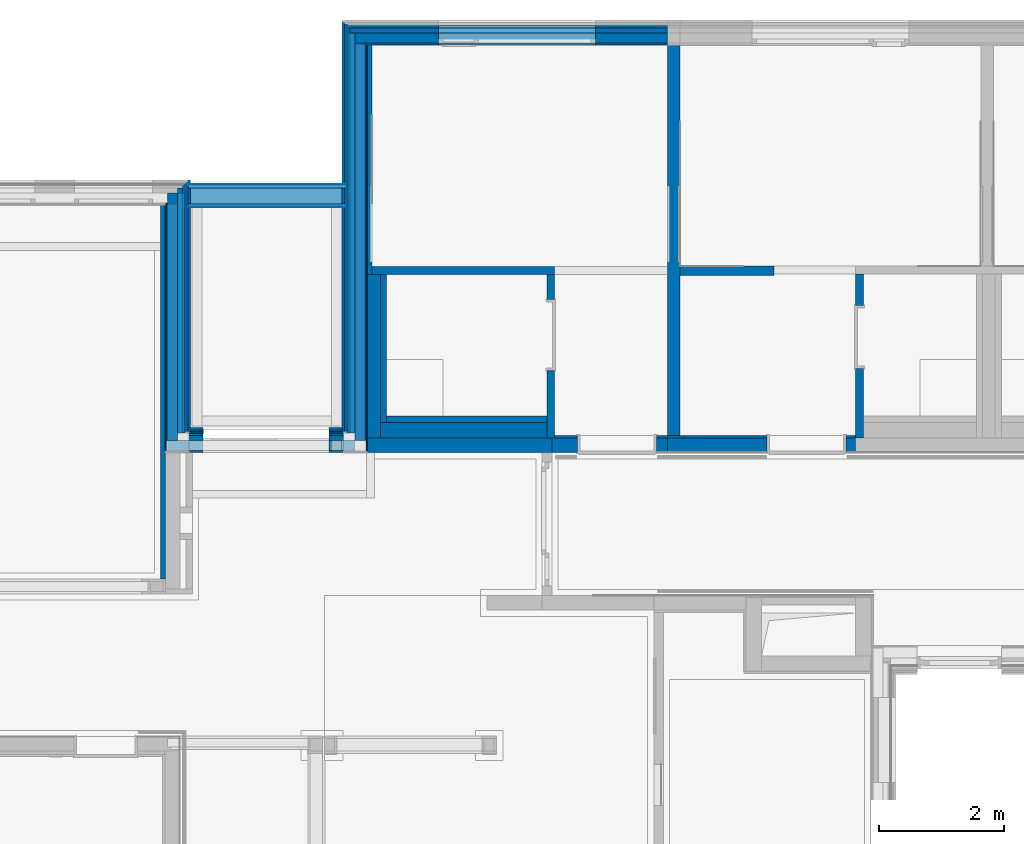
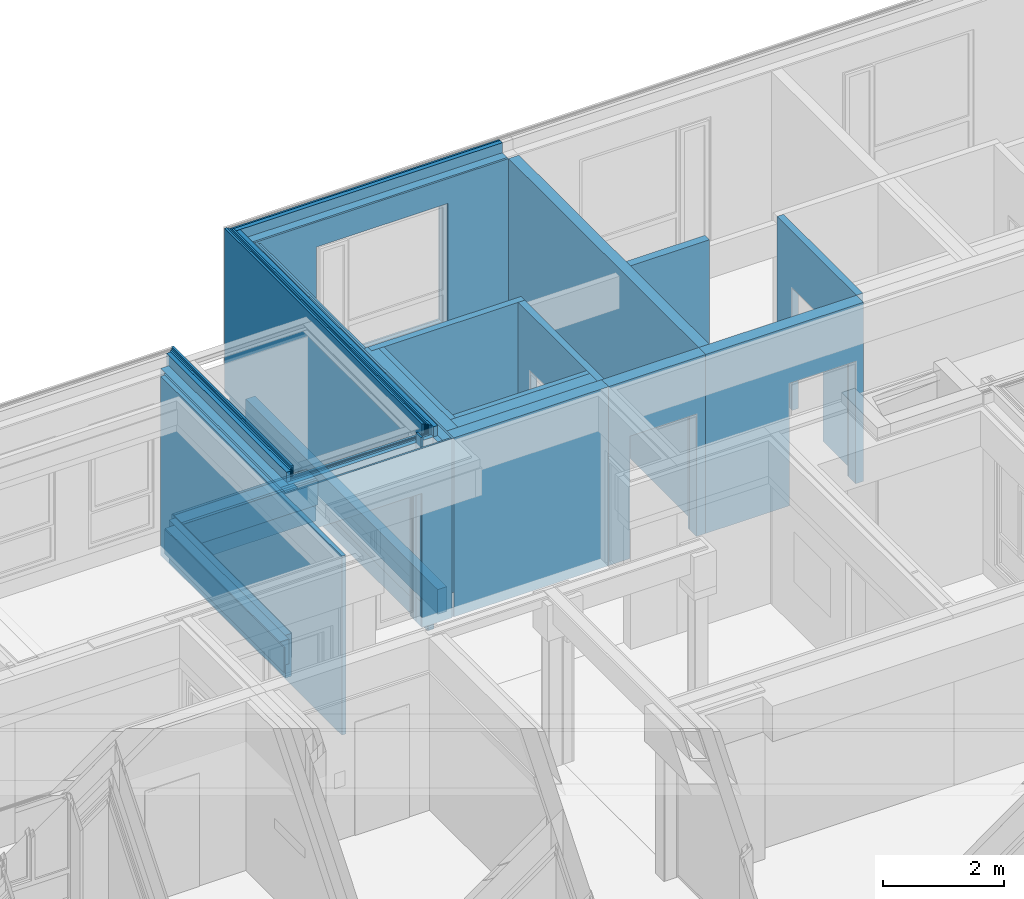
# One storey, part 58 of 207: 55 walls, 17 openings.
"""IFC4 building model written with IfcOpenShell, lengths in metres."""

from ifc_helpers import new_model, entity, si_unit, converted_unit, derived_unit, frame, frame_2d, origin, origin_with_axes, place, context, subcontext, project, spatial, polyline, rectangle, outline, extrude, clip, bounded_halfspace, material, element, save


model = new_model("IFC4")

# Units and contexts
model_context = context("Model", 3, precision=1e-05, world=origin())
body_context = subcontext(model_context, "Body", "Model", "MODEL_VIEW")
ifc_project = project(units=[si_unit("LENGTHUNIT", "METRE"), si_unit("AREAUNIT", "SQUARE_METRE"), si_unit("VOLUMEUNIT", "CUBIC_METRE"), si_unit("MASSUNIT", "GRAM", prefix="KILO"), converted_unit("PLANEANGLEUNIT", "DEGREE", entity("IfcPlaneAngleMeasure", 0.0174532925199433), si_unit("PLANEANGLEUNIT", "RADIAN"), dimensions=[0, 0, 0, 0, 0, 0, 0]), derived_unit("THERMALTRANSMITTANCEUNIT", [(si_unit("POWERUNIT", "WATT"), 1), (si_unit("THERMODYNAMICTEMPERATUREUNIT", "KELVIN"), -1), (si_unit("LENGTHUNIT", "METRE"), -2)]), derived_unit("VOLUMETRICFLOWRATEUNIT", [(si_unit("LENGTHUNIT", "METRE"), 3), (converted_unit("TIMEUNIT", "hour", entity("IfcTimeMeasure", 3600.0), si_unit("TIMEUNIT", "SECOND"), dimensions=[0, 0, 1, 0, 0, 0, 0]), -1), (si_unit("LENGTHUNIT", "METRE"), -1)])], contexts=[model_context])

# Site, building, storey
site_placement = place(None, origin())
site = spatial("IfcSite", under=ifc_project, at=site_placement, Name="Psychiatrie Neubau Wunstorf", CompositionType="ELEMENT")
building_placement = place(site_placement, origin())
building = spatial("IfcBuilding", under=site, at=building_placement, Name="Neubau H2 Stationsgebäude", CompositionType="ELEMENT")
storey_placement = place(building_placement, frame((0.0, 0.0, -0.2)))
storey = spatial("IfcBuildingStorey", under=building, at=storey_placement, Name="H2 Ebene 0", CompositionType="ELEMENT", Elevation=-0.2)

# Wall, opening
ifc_material_1 = material(Name="WA-LB")
wall_1_placement = place(storey_placement, frame((71.075, 31.614, 0.5), z_axis=(0.0, 0.0, 1.0), x_axis=(1.0, -1.50797048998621e-15, 0.0)))
wall_1 = element("IfcWall", 1, at=wall_1_placement, inside=storey, material=ifc_material_1, context=body_context, shape_type="SweptSolid", body=[
    extrude(rectangle(XDim=4.82499999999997, YDim=0.036, at=frame_2d((2.41249999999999, 0.018), x_axis=(1.0, 0.0))), origin_with_axes(), (0.0, 0.0, 1.0), 3.1),
])
opening_1_placement = place(wall_1_placement, frame((1.17499999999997, 0.0, 0.1), z_axis=(0.0, 1.0, 0.0), x_axis=(0.0, 0.0, 1.0)))
element("IfcOpeningElement", 2, at=opening_1_placement, cuts=wall_1, Name="Fensteröffnung", ObjectType="Opening", context=body_context, shape_type="SweptSolid", body=[
    extrude(outline(polyline([(2.5, 2.5), (2.5, 0.0), (0.0, 0.0), (0.0, 2.5), (2.5, 2.5)])), origin_with_axes(), (0.0, 0.0, 1.0), 0.0360000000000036),
])

ifc_material_2 = material(Name="WA-HD")
wall_2_placement = place(storey_placement, frame((70.915, 31.65, 0.5), z_axis=(0.0, 0.0, 1.0), x_axis=(1.0, -1.45957023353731e-15, 0.0)))
wall_2 = element("IfcWall", 3, at=wall_2_placement, inside=storey, material=ifc_material_2, context=body_context, shape_type="SweptSolid", body=[
    extrude(rectangle(XDim=4.98499999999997, YDim=0.16, at=frame_2d((2.49249999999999, 0.08), x_axis=(1.0, 0.0))), origin_with_axes(), (0.0, 0.0, 1.0), 3.1),
])
opening_2_placement = place(wall_2_placement, frame((1.33499999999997, 0.0, 0.1), z_axis=(-1.4210854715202e-15, 1.0, 0.0), x_axis=(0.0, 0.0, 1.0)))
element("IfcOpeningElement", 4, at=opening_2_placement, cuts=wall_2, Name="Fensteröffnung", ObjectType="Opening", context=body_context, shape_type="SweptSolid", body=[
    extrude(outline(polyline([(2.5, 2.5), (2.5, 0.0), (0.0, 0.0), (0.0, 2.5), (2.5, 2.5)])), origin_with_axes(), (0.0, 0.0, 1.0), 0.16),
])

ifc_material_3 = material(Name="WA-DL")
wall_3_placement = place(storey_placement, frame((70.835, 31.81, 0.5), z_axis=(0.0, 0.0, 1.0), x_axis=(1.0, -1.43651680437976e-15, 0.0)))
wall_3 = element("IfcWall", 5, at=wall_3_placement, inside=storey, material=ifc_material_3, context=body_context, shape_type="SweptSolid", body=[
    extrude(rectangle(XDim=5.06499999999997, YDim=0.08, at=frame_2d((2.53249999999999, 0.04), x_axis=(1.0, 0.0))), origin_with_axes(), (0.0, 0.0, 1.0), 3.3),
])
opening_3_placement = place(wall_3_placement, frame((1.41499999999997, 0.0, 0.1), z_axis=(-2.8421709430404e-15, 1.0, 0.0), x_axis=(0.0, 0.0, 1.0)))
element("IfcOpeningElement", 6, at=opening_3_placement, cuts=wall_3, Name="Fensteröffnung", ObjectType="Opening", context=body_context, shape_type="SweptSolid", body=[
    extrude(outline(polyline([(2.5, 2.5), (2.5, 0.0), (0.0, 0.0), (0.0, 2.5), (2.5, 2.5)])), origin_with_axes(), (0.0, 0.0, 1.0), 0.08),
])

ifc_material_4 = material(Name="WA-TP")
wall_4_placement = place(storey_placement, frame((70.799, 31.89, 0.5), z_axis=(0.0, 0.0, 1.0), x_axis=(1.0, -1.42637867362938e-15, 0.0)))
wall_4 = element("IfcWall", 7, at=wall_4_placement, inside=storey, material=ifc_material_4, context=body_context, shape_type="SweptSolid", body=[
    extrude(rectangle(XDim=5.10099999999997, YDim=0.036, at=frame_2d((2.55049999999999, 0.018), x_axis=(1.0, 0.0))), origin_with_axes(), (0.0, 0.0, 1.0), 3.3),
])
opening_4_placement = place(wall_4_placement, frame((1.45099999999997, 0.0, 0.1), z_axis=(0.0, 1.0, 0.0), x_axis=(0.0, 0.0, 1.0)))
element("IfcOpeningElement", 8, at=opening_4_placement, cuts=wall_4, Name="Fensteröffnung", ObjectType="Opening", context=body_context, shape_type="SweptSolid", body=[
    extrude(outline(polyline([(2.5, 2.5), (2.5, 0.0), (0.0, 0.0), (0.0, 2.5), (2.5, 2.5)])), origin_with_axes(), (0.0, 0.0, 1.0), 0.036),
])

# Walls
ifc_material_5 = material(Name="WA-LB")
wall_5_placement = place(storey_placement, frame((71.111, 25.1140036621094, 0.5), z_axis=(0.0, 0.0, 1.0), x_axis=(0.0, 1.0, 0.0)))
element("IfcWall", 9, at=wall_5_placement, inside=storey, material=ifc_material_5, context=body_context, shape_type="SweptSolid", body=[
    extrude(rectangle(XDim=6.49999633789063, YDim=0.036, at=frame_2d((3.24999816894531, 0.018), x_axis=(1.0, 0.0))), origin_with_axes(), (0.0, 0.0, 1.0), 3.1),
])
ifc_material_6 = material(Name="WA-HD")
wall_6_placement = place(storey_placement, frame((71.075, 25.1500036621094, 0.5), z_axis=(0.0, 0.0, 1.0), x_axis=(0.0, 1.0, 0.0)))
element("IfcWall", 10, at=wall_6_placement, inside=storey, material=ifc_material_6, context=body_context, shape_type="SweptSolid", body=[
    extrude(rectangle(XDim=6.49999633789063, YDim=0.16, at=frame_2d((3.24999816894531, 0.08), x_axis=(1.0, 0.0))), origin_with_axes(), (0.0, 0.0, 1.0), 3.1),
])
ifc_material_7 = material(Name="WA-DL")
wall_7_placement = place(storey_placement, frame((70.915, 25.3100036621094, 0.5), z_axis=(0.0, 0.0, 1.0), x_axis=(0.0, 1.0, 0.0)))
element("IfcWall", 11, at=wall_7_placement, inside=storey, material=ifc_material_7, context=body_context, shape_type="SweptSolid", body=[
    extrude(rectangle(XDim=6.49999633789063, YDim=0.08, at=frame_2d((3.24999816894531, 0.04), x_axis=(1.0, 0.0))), origin_with_axes(), (0.0, 0.0, 1.0), 3.3),
])
ifc_material_8 = material(Name="WA-TP")
wall_8_placement = place(storey_placement, frame((70.835, 25.3900036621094, 0.5), z_axis=(0.0, 0.0, 1.0), x_axis=(0.0, 1.0, 0.0)))
element("IfcWall", 12, at=wall_8_placement, inside=storey, material=ifc_material_8, context=body_context, shape_type="SweptSolid", body=[
    extrude(rectangle(XDim=6.49999633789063, YDim=0.036, at=frame_2d((3.24999816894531, 0.018), x_axis=(1.0, 0.0))), origin_with_axes(), (0.0, 0.0, 1.0), 3.3),
])
ifc_material_9 = material(Name="WA-KL")
wall_9_placement = place(storey_placement, frame((70.799, 25.4260036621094, 0.5), z_axis=(0.0, 0.0, 1.0), x_axis=(0.0, 1.0, 0.0)))
element("IfcWall", 13, at=wall_9_placement, inside=storey, material=ifc_material_9, context=body_context, shape_type="SweptSolid", body=[
    extrude(rectangle(XDim=6.49999633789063, YDim=0.024, at=frame_2d((3.24999816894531, 0.012), x_axis=(1.0, 0.0))), origin_with_axes(), (0.0, 0.0, 1.0), 3.3),
])
ifc_material_10 = material(Name="WA-TL")
wall_10_placement = place(storey_placement, frame((70.775, 25.4500036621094, 0.5), z_axis=(0.0, 0.0, 1.0), x_axis=(0.0, 1.0, 0.0)))
element("IfcWall", 14, at=wall_10_placement, inside=storey, material=ifc_material_10, context=body_context, shape_type="SweptSolid", body=[
    extrude(rectangle(XDim=6.49999633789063, YDim=0.024, at=frame_2d((3.24999816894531, 0.012), x_axis=(1.0, 0.0))), origin_with_axes(), (0.0, 0.0, 1.0), 3.3),
])
ifc_material_11 = material(Name="WA-HS")
wall_11_placement = place(storey_placement, frame((70.751, 25.4740036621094, 0.5), z_axis=(0.0, 0.0, 1.0), x_axis=(0.0, 1.0, 0.0)))
element("IfcWall", 15, at=wall_11_placement, inside=storey, material=ifc_material_11, context=body_context, shape_type="SweptSolid", body=[
    extrude(rectangle(XDim=6.49999633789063, YDim=0.042, at=frame_2d((3.24999816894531, 0.021), x_axis=(1.0, 0.0))), origin_with_axes(), (0.0, 0.0, 1.0), 3.3),
])

# Wall, opening
ifc_material_12 = material(Name="WA-LB")
wall_12_placement = place(storey_placement, frame((67.889, 25.1140036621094, 0.0)))
wall_12 = element("IfcWall", 16, at=wall_12_placement, inside=storey, material=ifc_material_12, context=body_context, shape_type="SweptSolid", body=[
    extrude(rectangle(XDim=3.186, YDim=0.036, at=frame_2d((1.593, 0.018), x_axis=(1.0, 0.0))), origin_with_axes(), (0.0, 0.0, 1.0), 3.6),
])
opening_5_placement = place(wall_12_placement, frame((0.602, 0.0, 0.0), z_axis=(0.0, 1.0, 0.0), x_axis=(0.0, 0.0, 1.0)))
element("IfcOpeningElement", 17, at=opening_5_placement, cuts=wall_12, Name="Türöffnung", ObjectType="Opening", context=body_context, shape_type="SweptSolid", body=[
    extrude(outline(polyline([(2.7, 2.01300094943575), (2.7, 0.0), (0.0, 0.0), (0.0, 2.01300094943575), (2.7, 2.01300094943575)])), origin_with_axes(), (0.0, 0.0, 1.0), 0.036),
])

ifc_material_13 = material(Name="WA-HD")
wall_13_placement = place(storey_placement, frame((67.925, 25.1500036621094, 0.0)))
wall_13 = element("IfcWall", 18, at=wall_13_placement, inside=storey, material=ifc_material_13, context=body_context, shape_type="Clipping", body=[
    clip(clip(clip(clip(extrude(rectangle(XDim=2.99, YDim=0.16, at=frame_2d((1.495, 0.08), x_axis=(1.0, 0.0))), origin_with_axes(), (0.0, 0.0, 1.0), 3.6), bounded_halfspace(frame((1.41450000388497, 0.0799990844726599, 3.2), z_axis=(0.0, 0.0, -1.0), x_axis=(-1.0, 0.0, 0.0)), True, origin_with_axes(), polyline([(2.57900000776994, 0.15999816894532), (0.25, 0.15999816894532), (0.25, 0.0), (2.57900000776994, 0.0), (2.57900000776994, 0.15999816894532)]))), bounded_halfspace(frame((2.83750000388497, 0.0799990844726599, 3.2), z_axis=(0.0, 0.0, -1.0), x_axis=(1.0, 0.0, 0.0)), True, origin_with_axes(), polyline([(2.77500000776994, 0.0), (2.9, 0.0), (2.9, 0.15999816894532), (2.77500000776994, 0.15999816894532), (2.77500000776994, 0.0)]))), bounded_halfspace(frame((2.69500000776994, 0.0799990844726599, 0.5), z_axis=(0.0, 0.0, -1.0), x_axis=(0.0, -1.0, 0.0)), True, origin_with_axes(), polyline([(2.61500000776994, 0.15999816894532), (2.61500000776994, 0.0), (2.77500000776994, 0.0), (2.77500000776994, 0.15999816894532), (2.61500000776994, 0.15999816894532)]))), bounded_halfspace(frame((2.59700000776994, 0.0799990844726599, 0.5), z_axis=(0.0, 0.0, -1.0), x_axis=(-1.0, 0.0, 0.0)), True, origin_with_axes(), polyline([(2.61500000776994, 0.15999816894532), (2.57900000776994, 0.15999816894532), (2.57900000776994, 0.0), (2.61500000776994, 0.0), (2.61500000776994, 0.15999816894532)]))),
])
opening_6_placement = place(wall_13_placement, frame((0.566, 0.0, 0.0), z_axis=(0.0, 1.0, 0.0), x_axis=(0.0, 0.0, 1.0)))
element("IfcOpeningElement", 19, at=opening_6_placement, cuts=wall_13, Name="Türöffnung", ObjectType="Opening", context=body_context, shape_type="SweptSolid", body=[
    extrude(outline(polyline([(2.7, 2.01300094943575), (2.7, 0.0), (0.0, 0.0), (0.0, 2.01300094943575), (2.7, 2.01300094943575)])), origin_with_axes(), (0.0, 0.0, 1.0), 0.16),
])

ifc_material_14 = material(Name="WA-DL")
wall_14_placement = place(storey_placement, frame((68.085, 25.3100036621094, 0.0)))
wall_14 = element("IfcWall", 20, at=wall_14_placement, inside=storey, material=ifc_material_14, context=body_context, shape_type="SweptSolid", body=[
    extrude(rectangle(XDim=2.75, YDim=0.08, at=frame_2d((1.375, 0.04), x_axis=(1.0, 0.0))), origin_with_axes(), (0.0, 0.0, 1.0), 3.6),
])
opening_7_placement = place(wall_14_placement, frame((0.406, 0.0, 0.0), z_axis=(0.0, 1.0, 0.0), x_axis=(0.0, 0.0, 1.0)))
element("IfcOpeningElement", 21, at=opening_7_placement, cuts=wall_14, Name="Türöffnung", ObjectType="Opening", context=body_context, shape_type="SweptSolid", body=[
    extrude(outline(polyline([(2.7, 2.01300094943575), (2.7, 0.0), (0.0, 0.0), (0.0, 2.01300094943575), (2.7, 2.01300094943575)])), origin_with_axes(), (0.0, 0.0, 1.0), 0.08),
])

ifc_material_15 = material(Name="WA-TP")
wall_15_placement = place(storey_placement, frame((68.165, 25.3900036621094, 0.0)))
wall_15 = element("IfcWall", 22, at=wall_15_placement, inside=storey, material=ifc_material_15, context=body_context, shape_type="SweptSolid", body=[
    extrude(rectangle(XDim=2.634, YDim=0.036, at=frame_2d((1.317, 0.018), x_axis=(1.0, 0.0))), origin_with_axes(), (0.0, 0.0, 1.0), 3.6),
])
opening_8_placement = place(wall_15_placement, frame((0.326, 0.0, 0.0), z_axis=(0.0, 1.0, 0.0), x_axis=(0.0, 0.0, 1.0)))
element("IfcOpeningElement", 23, at=opening_8_placement, cuts=wall_15, Name="Türöffnung", ObjectType="Opening", context=body_context, shape_type="SweptSolid", body=[
    extrude(outline(polyline([(2.7, 2.01300094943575), (2.7, 0.0), (0.0, 0.0), (0.0, 2.01300094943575), (2.7, 2.01300094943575)])), origin_with_axes(), (0.0, 0.0, 1.0), 0.036),
])

ifc_material_16 = material(Name="WA-KL")
wall_16_placement = place(storey_placement, frame((68.201, 25.4260036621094, 0.0)))
wall_16 = element("IfcWall", 24, at=wall_16_placement, inside=storey, material=ifc_material_16, context=body_context, shape_type="SweptSolid", body=[
    extrude(rectangle(XDim=2.574, YDim=0.024, at=frame_2d((1.287, 0.012), x_axis=(1.0, 0.0))), origin_with_axes(), (0.0, 0.0, 1.0), 3.6),
])
opening_9_placement = place(wall_16_placement, frame((0.29, 0.0, 0.0), z_axis=(0.0, 1.0, 0.0), x_axis=(0.0, 0.0, 1.0)))
element("IfcOpeningElement", 25, at=opening_9_placement, cuts=wall_16, Name="Türöffnung", ObjectType="Opening", context=body_context, shape_type="SweptSolid", body=[
    extrude(outline(polyline([(2.7, 2.01300094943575), (2.7, 0.0), (0.0, 0.0), (0.0, 2.01300094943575), (2.7, 2.01300094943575)])), origin_with_axes(), (0.0, 0.0, 1.0), 0.024),
])

ifc_material_17 = material(Name="WA-TL")
wall_17_placement = place(storey_placement, frame((68.225, 25.4500036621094, 0.0)))
wall_17 = element("IfcWall", 26, at=wall_17_placement, inside=storey, material=ifc_material_17, context=body_context, shape_type="SweptSolid", body=[
    extrude(rectangle(XDim=2.526, YDim=0.024, at=frame_2d((1.263, 0.012), x_axis=(1.0, 0.0))), origin_with_axes(), (0.0, 0.0, 1.0), 3.6),
])
opening_10_placement = place(wall_17_placement, frame((0.266, 0.0, 0.0), z_axis=(0.0, 1.0, 0.0), x_axis=(0.0, 0.0, 1.0)))
element("IfcOpeningElement", 27, at=opening_10_placement, cuts=wall_17, Name="Türöffnung", ObjectType="Opening", context=body_context, shape_type="SweptSolid", body=[
    extrude(outline(polyline([(2.7, 2.01300094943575), (2.7, 0.0), (0.0, 0.0), (0.0, 2.01300094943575), (2.7, 2.01300094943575)])), origin_with_axes(), (0.0, 0.0, 1.0), 0.024),
])

ifc_material_18 = material(Name="WA-HS")
wall_18_placement = place(storey_placement, frame((68.249, 25.4740036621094, 0.0)))
wall_18 = element("IfcWall", 28, at=wall_18_placement, inside=storey, material=ifc_material_18, context=body_context, shape_type="SweptSolid", body=[
    extrude(rectangle(XDim=2.46, YDim=0.042, at=frame_2d((1.23, 0.021), x_axis=(1.0, 0.0))), origin_with_axes(), (0.0, 0.0, 1.0), 3.6),
])
opening_11_placement = place(wall_18_placement, frame((0.242, 0.0, 0.0), z_axis=(0.0, 1.0, 0.0), x_axis=(0.0, 0.0, 1.0)))
element("IfcOpeningElement", 29, at=opening_11_placement, cuts=wall_18, Name="Türöffnung", ObjectType="Opening", context=body_context, shape_type="SweptSolid", body=[
    extrude(outline(polyline([(2.7, 2.01300094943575), (2.7, 0.0), (0.0, 0.0), (0.0, 2.01300094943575), (2.7, 2.01300094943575)])), origin_with_axes(), (0.0, 0.0, 1.0), 0.042),
])

# Walls
ifc_material_19 = material(Name="WA-LB")
wall_19_placement = place(storey_placement, frame((67.889, 29.0999996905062, 0.5), z_axis=(0.0, 0.0, 1.0), x_axis=(0.0, -1.0, 0.0)))
element("IfcWall", 30, at=wall_19_placement, inside=storey, material=ifc_material_19, context=body_context, shape_type="SweptSolid", body=[
    extrude(rectangle(XDim=3.94999602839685, YDim=0.036, at=frame_2d((1.97499801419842, 0.018), x_axis=(1.0, 0.0))), origin_with_axes(), (0.0, 0.0, 1.0), 3.1),
])
ifc_material_20 = material(Name="WA-HD")
wall_20_placement = place(storey_placement, frame((67.925, 29.2599996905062, 0.5), z_axis=(0.0, 0.0, 1.0), x_axis=(0.0, -1.0, 0.0)))
element("IfcWall", 31, at=wall_20_placement, inside=storey, material=ifc_material_20, context=body_context, shape_type="SweptSolid", body=[
    extrude(rectangle(XDim=3.94999602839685, YDim=0.16, at=frame_2d((1.97499801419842, 0.08), x_axis=(1.0, 0.0))), origin_with_axes(), (0.0, 0.0, 1.0), 3.1),
])
ifc_material_21 = material(Name="WA-DL")
wall_21_placement = place(storey_placement, frame((68.085, 29.3399996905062, 0.5), z_axis=(0.0, 0.0, 1.0), x_axis=(0.0, -1.0, 0.0)))
element("IfcWall", 32, at=wall_21_placement, inside=storey, material=ifc_material_21, context=body_context, shape_type="SweptSolid", body=[
    extrude(rectangle(XDim=3.94999602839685, YDim=0.08, at=frame_2d((1.97499801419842, 0.04), x_axis=(1.0, 0.0))), origin_with_axes(), (0.0, 0.0, 1.0), 3.3),
])
ifc_material_22 = material(Name="WA-TP")
wall_22_placement = place(storey_placement, frame((68.165, 29.3759996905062, 0.5), z_axis=(0.0, 0.0, 1.0), x_axis=(0.0, -1.0, 0.0)))
element("IfcWall", 33, at=wall_22_placement, inside=storey, material=ifc_material_22, context=body_context, shape_type="SweptSolid", body=[
    extrude(rectangle(XDim=3.94999602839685, YDim=0.036, at=frame_2d((1.97499801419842, 0.018), x_axis=(1.0, 0.0))), origin_with_axes(), (0.0, 0.0, 1.0), 3.3),
])
ifc_material_23 = material(Name="WA-KL")
wall_23_placement = place(storey_placement, frame((68.201, 29.3999996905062, 0.5), z_axis=(0.0, 0.0, 1.0), x_axis=(0.0, -1.0, 0.0)))
element("IfcWall", 34, at=wall_23_placement, inside=storey, material=ifc_material_23, context=body_context, shape_type="SweptSolid", body=[
    extrude(rectangle(XDim=3.94999602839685, YDim=0.024, at=frame_2d((1.97499801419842, 0.012), x_axis=(1.0, 0.0))), origin_with_axes(), (0.0, 0.0, 1.0), 3.3),
])
ifc_material_24 = material(Name="WA-TL")
wall_24_placement = place(storey_placement, frame((68.225, 29.4239996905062, 0.5), z_axis=(0.0, 0.0, 1.0), x_axis=(0.0, -1.0, 0.0)))
element("IfcWall", 35, at=wall_24_placement, inside=storey, material=ifc_material_24, context=body_context, shape_type="SweptSolid", body=[
    extrude(rectangle(XDim=3.94999602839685, YDim=0.024, at=frame_2d((1.97499801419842, 0.012), x_axis=(1.0, 0.0))), origin_with_axes(), (0.0, 0.0, 1.0), 3.3),
])
ifc_material_25 = material(Name="WA-HS")
wall_25_placement = place(storey_placement, frame((68.249, 29.4659996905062, 0.5), z_axis=(0.0, 0.0, 1.0), x_axis=(0.0, -1.0, 0.0)))
element("IfcWall", 36, at=wall_25_placement, inside=storey, material=ifc_material_25, context=body_context, shape_type="SweptSolid", body=[
    extrude(rectangle(XDim=3.94999602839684, YDim=0.042, at=frame_2d((1.97499801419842, 0.021), x_axis=(1.0, 0.0))), origin_with_axes(), (0.0, 0.0, 1.0), 3.3),
])
ifc_material_26 = material(Name="WI-GKF")
wall_26_placement = place(storey_placement, frame((70.5040000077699, 25.31, 0.5), z_axis=(0.0, 0.0, 1.0), x_axis=(0.0, -1.0, 0.0)))
element("IfcWall", 37, at=wall_26_placement, inside=storey, material=ifc_material_26, context=body_context, shape_type="SweptSolid", body=[
    extrude(rectangle(XDim=0.16, YDim=0.036, at=frame_2d((0.08, 0.018), x_axis=(1.0, 0.0))), origin_with_axes(), (0.0, 0.0, 1.0), 3.3),
])
ifc_material_27 = material(Name="WA-LB")
wall_27_placement = place(storey_placement, frame((71.111, 25.1350036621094, 0.0), z_axis=(0.0, 0.0, 1.0), x_axis=(0.0, 1.0, 0.0)))
element("IfcWall", 38, at=wall_27_placement, inside=storey, material=ifc_material_27, context=body_context, shape_type="SweptSolid", body=[
    extrude(rectangle(XDim=6.47899633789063, YDim=0.021, at=frame_2d((3.23949816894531, 0.0105), x_axis=(1.0, 0.0))), origin_with_axes(), (0.0, 0.0, 1.0), 0.5),
])
ifc_material_28 = material(Name="WA-STB")
wall_28_placement = place(storey_placement, frame((71.09, 25.3100036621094, 0.0), z_axis=(0.0, 0.0, 1.0), x_axis=(0.0, 1.0, 0.0)))
element("IfcWall", 39, at=wall_28_placement, inside=storey, material=ifc_material_28, context=body_context, shape_type="SweptSolid", body=[
    extrude(rectangle(XDim=6.32499633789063, YDim=0.175, at=frame_2d((3.16249816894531, 0.0875), x_axis=(1.0, 0.0))), origin_with_axes(), (0.0, 0.0, 1.0), 0.5),
])
ifc_material_29 = material(Name="WA-DE")
wall_29_placement = place(storey_placement, frame((70.915, 25.4300036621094, -0.36), z_axis=(0.0, 0.0, 1.0), x_axis=(0.0, 1.0, 0.0)))
element("IfcWall", 40, at=wall_29_placement, inside=storey, material=ifc_material_29, context=body_context, shape_type="SweptSolid", body=[
    extrude(rectangle(XDim=6.37999633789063, YDim=0.12, at=frame_2d((3.18999816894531, 0.06), x_axis=(1.0, 0.0))), origin_with_axes(), (0.0, 0.0, 1.0), 0.86),
])
ifc_material_30 = material(Name="WA-LB")
wall_30_placement = place(storey_placement, frame((70.795, 25.4450036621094, 0.0), z_axis=(0.0, 0.0, 1.0), x_axis=(0.0, 1.0, 0.0)))
element("IfcWall", 41, at=wall_30_placement, inside=storey, material=ifc_material_30, context=body_context, shape_type="SweptSolid", body=[
    extrude(rectangle(XDim=6.48499633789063, YDim=0.015, at=frame_2d((3.24249816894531, 0.0075), x_axis=(1.0, 0.0))), origin_with_axes(), (0.0, 0.0, 1.0), 0.5),
])
ifc_material_31 = material(Name="WA-LB")
wall_31_placement = place(storey_placement, frame((67.889, 29.0639996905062, 0.0), z_axis=(0.0, 0.0, 1.0), x_axis=(0.0, -1.0, 0.0)))
element("IfcWall", 42, at=wall_31_placement, inside=storey, material=ifc_material_31, context=body_context, shape_type="SweptSolid", body=[
    extrude(rectangle(XDim=3.92899602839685, YDim=0.021, at=frame_2d((1.96449801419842, 0.0105), x_axis=(1.0, 0.0))), origin_with_axes(), (0.0, 0.0, 1.0), 0.5),
])
ifc_material_32 = material(Name="WA-STB")
wall_32_placement = place(storey_placement, frame((67.91, 29.0849996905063, 0.0), z_axis=(0.0, 0.0, 1.0), x_axis=(0.0, -1.0, 0.0)))
element("IfcWall", 43, at=wall_32_placement, inside=storey, material=ifc_material_32, context=body_context, shape_type="SweptSolid", body=[
    extrude(rectangle(XDim=3.77499602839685, YDim=0.175, at=frame_2d((1.88749801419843, 0.0875), x_axis=(1.0, 0.0))), origin_with_axes(), (0.0, 0.0, 1.0), 0.5),
])
ifc_material_33 = material(Name="WA-DE")
wall_33_placement = place(storey_placement, frame((68.085, 29.2599996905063, -0.36), z_axis=(0.0, 0.0, 1.0), x_axis=(0.0, -1.0, 0.0)))
element("IfcWall", 44, at=wall_33_placement, inside=storey, material=ifc_material_33, context=body_context, shape_type="SweptSolid", body=[
    extrude(rectangle(XDim=3.82999602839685, YDim=0.12, at=frame_2d((1.91499801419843, 0.06), x_axis=(1.0, 0.0))), origin_with_axes(), (0.0, 0.0, 1.0), 0.86),
])
ifc_material_34 = material(Name="WA-LB")
wall_34_placement = place(storey_placement, frame((68.205, 29.3799996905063, 0.0), z_axis=(0.0, 0.0, 1.0), x_axis=(0.0, -1.0, 0.0)))
element("IfcWall", 45, at=wall_34_placement, inside=storey, material=ifc_material_34, context=body_context, shape_type="SweptSolid", body=[
    extrude(rectangle(XDim=3.93499602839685, YDim=0.015, at=frame_2d((1.96749801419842, 0.0075), x_axis=(1.0, 0.0))), origin_with_axes(), (0.0, 0.0, 1.0), 0.5),
])
ifc_material_35 = material(Name="WA-FAS")
wall_35_placement = place(storey_placement, frame((68.22, 29.0274998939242, 0.0)))
element("IfcWall", 46, at=wall_35_placement, inside=storey, material=ifc_material_35, context=body_context, shape_type="SweptSolid", body=[
    extrude(rectangle(XDim=2.56, YDim=0.006, at=frame_2d((1.28, 0.003), x_axis=(1.0, 0.0))), origin_with_axes(), (0.0, 0.0, 1.0), 0.5),
])
ifc_material_36 = material(Name="WA-FAS")
wall_36_placement = place(storey_placement, frame((68.22, 29.0334998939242, 0.0)))
element("IfcWall", 47, at=wall_36_placement, inside=storey, material=ifc_material_36, context=body_context, shape_type="SweptSolid", body=[
    extrude(rectangle(XDim=2.56, YDim=0.0515, at=frame_2d((1.28, 0.02575), x_axis=(1.0, 0.0))), origin_with_axes(), (0.0, 0.0, 1.0), 0.5),
])
ifc_material_37 = material(Name="WA-STB")
wall_37_placement = place(storey_placement, frame((68.22, 29.0849998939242, -0.36)))
element("IfcWall", 48, at=wall_37_placement, inside=storey, material=ifc_material_37, context=body_context, shape_type="SweptSolid", body=[
    extrude(rectangle(XDim=2.56, YDim=0.25, at=frame_2d((1.28, 0.125), x_axis=(1.0, 0.0))), origin_with_axes(), (0.0, 0.0, 1.0), 0.86),
])
ifc_material_38 = material(Name="WA-FAS")
wall_38_placement = place(storey_placement, frame((68.22, 29.3349998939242, 0.0)))
element("IfcWall", 49, at=wall_38_placement, inside=storey, material=ifc_material_38, context=body_context, shape_type="SweptSolid", body=[
    extrude(rectangle(XDim=2.56, YDim=0.0515, at=frame_2d((1.28, 0.02575), x_axis=(1.0, 0.0))), origin_with_axes(), (0.0, 0.0, 1.0), 0.5),
])
ifc_material_39 = material(Name="WA-FAS")
wall_39_placement = place(storey_placement, frame((68.22, 29.3864998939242, 0.0)))
element("IfcWall", 50, at=wall_39_placement, inside=storey, material=ifc_material_39, context=body_context, shape_type="SweptSolid", body=[
    extrude(rectangle(XDim=2.56, YDim=0.006, at=frame_2d((1.28, 0.003), x_axis=(1.0, 0.0))), origin_with_axes(), (0.0, 0.0, 1.0), 0.5),
])
ifc_material_40 = material(Name="WI-LB")
wall_40_placement = place(storey_placement, frame((71.186, 27.9575, 0.0)))
element("IfcWall", 51, at=wall_40_placement, inside=storey, material=ifc_material_40, context=body_context, shape_type="SweptSolid", body=[
    extrude(rectangle(XDim=2.914, YDim=0.125, at=frame_2d((1.457, 0.0625), x_axis=(1.0, 0.0))), origin_with_axes(), (0.0, 0.0, 1.0), 3.6),
])

# Wall, opening
ifc_material_41 = material(Name="WI-LB")
wall_41_placement = place(storey_placement, frame((73.975, 27.9575, 0.0), z_axis=(0.0, 0.0, 1.0), x_axis=(0.0, -1.0, 0.0)))
wall_41 = element("IfcWall", 52, at=wall_41_placement, inside=storey, material=ifc_material_41, context=body_context, shape_type="SweptSolid", body=[
    extrude(rectangle(XDim=2.60799999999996, YDim=0.125, at=frame_2d((1.30399999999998, 0.0625), x_axis=(1.0, 0.0))), origin_with_axes(), (0.0, 0.0, 1.0), 3.6),
])
opening_12_placement = place(wall_41_placement, frame((0.4, 0.0, 0.0), z_axis=(0.0, 1.0, 0.0), x_axis=(0.0, 0.0, 1.0)))
element("IfcOpeningElement", 53, at=opening_12_placement, cuts=wall_41, Name="Türöffnung", ObjectType="Opening", context=body_context, shape_type="SweptSolid", body=[
    extrude(outline(polyline([(2.46, 1.135), (2.46, 0.0), (0.0, 0.0), (0.0, 1.135), (2.46, 1.135)])), origin_with_axes(), (0.0, 0.0, 1.0), 0.125),
])

# Wall
ifc_material_42 = material(Name="WI-LB")
wall_42_placement = place(storey_placement, frame((75.9, 31.614, 0.0), z_axis=(0.0, 0.0, 1.0), x_axis=(0.0, -1.0, 0.0)))
element("IfcWall", 54, at=wall_42_placement, inside=storey, material=ifc_material_42, context=body_context, shape_type="SweptSolid", body=[
    extrude(rectangle(XDim=6.26449999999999, YDim=0.2, at=frame_2d((3.13225, 0.1), x_axis=(1.0, 0.0))), origin_with_axes(), (0.0, 0.0, 1.0), 3.6),
])

# Wall, opening
ifc_material_43 = material(Name="WI-LB")
wall_43_placement = place(storey_placement, frame((78.9, 27.9645, 0.0), z_axis=(0.0, 0.0, 1.0), x_axis=(0.0, -1.0, 0.0)))
wall_43 = element("IfcWall", 55, at=wall_43_placement, inside=storey, material=ifc_material_43, context=body_context, shape_type="SweptSolid", body=[
    extrude(rectangle(XDim=2.615, YDim=0.125, at=frame_2d((1.3075, 0.0625), x_axis=(1.0, 0.0))), origin_with_axes(), (0.0, 0.0, 1.0), 3.6),
])
opening_13_placement = place(wall_43_placement, frame((1.51, 0.125, 0.0), z_axis=(0.0, -1.0, 0.0), x_axis=(0.0, 0.0, 1.0)))
element("IfcOpeningElement", 56, at=opening_13_placement, cuts=wall_43, Name="Türöffnung", ObjectType="Opening", context=body_context, shape_type="SweptSolid", body=[
    extrude(outline(polyline([(2.46, 1.01), (2.46, 0.0), (0.0, 0.0), (0.0, 1.01), (2.46, 1.01)])), origin_with_axes(), (0.0, 0.0, 1.0), 0.125),
])

# Wall
ifc_material_44 = material(Name="WI-LB")
wall_44_placement = place(storey_placement, frame((76.1, 27.9395, 0.0)))
element("IfcWall", 57, at=wall_44_placement, inside=storey, material=ifc_material_44, context=body_context, shape_type="SweptSolid", body=[
    extrude(rectangle(XDim=1.5, YDim=0.15, at=frame_2d((0.75, 0.075), x_axis=(1.0, 0.0))), origin_with_axes(), (0.0, 0.0, 1.0), 3.6),
])

# Wall, opening
ifc_material_45 = material(Name="WI-HW 60")
wall_45_placement = place(storey_placement, frame((75.9, 25.1175, 0.0)))
wall_45 = element("IfcWall", 58, at=wall_45_placement, inside=storey, material=ifc_material_45, context=body_context, shape_type="SweptSolid", body=[
    extrude(rectangle(XDim=3.0, YDim=0.232, at=frame_2d((1.5, 0.116), x_axis=(1.0, 0.0))), origin_with_axes(), (0.0, 0.0, 1.0), 3.6),
])
opening_14_placement = place(wall_45_placement, frame((1.59, 0.0, 0.0), z_axis=(0.0, 1.0, 0.0), x_axis=(0.0, 0.0, 1.0)))
element("IfcOpeningElement", 59, at=opening_14_placement, cuts=wall_45, Name="Türöffnung", ObjectType="Opening", context=body_context, shape_type="SweptSolid", body=[
    extrude(outline(polyline([(2.46, 1.26), (2.46, 0.0), (0.0, 0.0), (0.0, 1.26), (2.46, 1.26)])), origin_with_axes(), (0.0, 0.0, 1.0), 0.232),
])

ifc_material_46 = material(Name="WI-LB")
wall_46_placement = place(storey_placement, frame((75.9, 25.3495, 0.0)))
wall_46 = element("IfcWall", 60, at=wall_46_placement, inside=storey, material=ifc_material_46, context=body_context, shape_type="SweptSolid", body=[
    extrude(rectangle(XDim=3.0, YDim=0.04, at=frame_2d((1.5, 0.02), x_axis=(1.0, 0.0))), origin_with_axes(), (0.0, 0.0, 1.0), 2.9),
])
opening_15_placement = place(wall_46_placement, frame((1.59, 0.0, 0.0), z_axis=(0.0, 1.0, 0.0), x_axis=(0.0, 0.0, 1.0)))
element("IfcOpeningElement", 61, at=opening_15_placement, cuts=wall_46, Name="Türöffnung", ObjectType="Opening", context=body_context, shape_type="SweptSolid", body=[
    extrude(outline(polyline([(2.46, 1.26), (2.46, 0.0), (0.0, 0.0), (0.0, 1.26), (2.46, 1.26)])), origin_with_axes(), (0.0, 0.0, 1.0), 0.04),
])

# Wall
ifc_material_47 = material(Name="WI-HW 60")
wall_47_placement = place(storey_placement, frame((74.055, 25.3495, 0.0), z_axis=(0.0, 0.0, 1.0), x_axis=(-1.0, 0.0, 0.0)))
element("IfcWall", 62, at=wall_47_placement, inside=storey, material=ifc_material_47, context=body_context, shape_type="SweptSolid", body=[
    extrude(rectangle(XDim=2.944, YDim=0.232, at=frame_2d((1.472, 0.116), x_axis=(1.0, 0.0))), origin_with_axes(), (0.0, 0.0, 1.0), 3.6),
])

# Wall, opening
ifc_material_48 = material(Name="WI-HW 60")
wall_48_placement = place(storey_placement, frame((74.055, 25.1175, 0.0)))
wall_48 = element("IfcWall", 63, at=wall_48_placement, inside=storey, material=ifc_material_48, context=body_context, shape_type="SweptSolid", body=[
    extrude(outline(polyline([(0.0, 0.0), (1.845, 0.0), (1.845, 0.232), (0.045, 0.232000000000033), (0.0, 0.232000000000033), (0.0, 0.0)])), origin_with_axes(), (0.0, 0.0, 1.0), 3.6),
])
opening_16_placement = place(wall_48_placement, frame((0.41, 0.0, 0.0), z_axis=(0.0, 1.0, 0.0), x_axis=(0.0, 0.0, 1.0)))
element("IfcOpeningElement", 64, at=opening_16_placement, cuts=wall_48, Name="Türöffnung", ObjectType="Opening", context=body_context, shape_type="SweptSolid", body=[
    extrude(outline(polyline([(2.46, 1.26), (2.46, 0.0), (0.0, 0.0), (0.0, 1.26), (2.46, 1.26)])), origin_with_axes(), (0.0, 0.0, 1.0), 0.232),
])

ifc_material_49 = material(Name="WI-LB")
wall_49_placement = place(storey_placement, frame((74.1, 25.3495, 0.0)))
wall_49 = element("IfcWall", 65, at=wall_49_placement, inside=storey, material=ifc_material_49, context=body_context, shape_type="SweptSolid", body=[
    extrude(rectangle(XDim=1.8, YDim=0.04, at=frame_2d((0.9, 0.02), x_axis=(1.0, 0.0))), origin_with_axes(), (0.0, 0.0, 1.0), 2.9),
])
opening_17_placement = place(wall_49_placement, frame((0.365, 0.0, 0.0), z_axis=(0.0, 1.0, 0.0), x_axis=(0.0, 0.0, 1.0)))
element("IfcOpeningElement", 66, at=opening_17_placement, cuts=wall_49, Name="Türöffnung", ObjectType="Opening", context=body_context, shape_type="SweptSolid", body=[
    extrude(outline(polyline([(2.46, 1.26), (2.46, 0.0), (0.0, 0.0), (0.0, 1.26), (2.46, 1.26)])), origin_with_axes(), (0.0, 0.0, 1.0), 0.04),
])

# Walls
ifc_material_50 = material(Name="WI-LB")
wall_50_placement = place(storey_placement, frame((71.111, 31.614, 0.0), z_axis=(0.0, 0.0, 1.0), x_axis=(0.0, -1.0, 0.0)))
element("IfcWall", 67, at=wall_50_placement, inside=storey, material=ifc_material_50, context=body_context, shape_type="SweptSolid", body=[
    extrude(rectangle(XDim=3.6565, YDim=0.075, at=frame_2d((1.82825, 0.0375), x_axis=(1.0, 0.0))), origin_with_axes(), (0.0, 0.0, 1.0), 3.55),
])
ifc_material_51 = material(Name="Installationsraum")
wall_51_placement = place(storey_placement, frame((71.321, 25.3495, 0.0)))
element("IfcWall", 68, at=wall_51_placement, inside=storey, material=ifc_material_51, context=body_context, shape_type="SweptSolid", body=[
    extrude(rectangle(XDim=2.654, YDim=0.25, at=frame_2d((1.327, 0.125), x_axis=(1.0, 0.0))), origin_with_axes(), (0.0, 0.0, 1.0), 3.6),
])
ifc_material_52 = material(Name="WI-VS")
wall_52_placement = place(storey_placement, frame((71.421, 25.5995, 0.0)))
element("IfcWall", 69, at=wall_52_placement, inside=storey, material=ifc_material_52, context=body_context, shape_type="SweptSolid", body=[
    extrude(rectangle(XDim=2.554, YDim=0.1, at=frame_2d((1.277, 0.05), x_axis=(1.0, 0.0))), origin_with_axes(), (0.0, 0.0, 1.0), 3.6),
])
ifc_material_53 = material(Name="Installationsraum")
wall_53_placement = place(storey_placement, frame((71.111, 28.0825, 0.0), z_axis=(0.0, 0.0, 1.0), x_axis=(0.0, -1.0, 0.0)))
element("IfcWall", 70, at=wall_53_placement, inside=storey, material=ifc_material_53, context=body_context, shape_type="Clipping", body=[
    clip(extrude(outline(polyline([(-2.733, 0.0), (0.0, 0.0), (0.0, 0.21), (-2.608, 0.21), (-2.608, 0.075), (-2.733, 0.075), (-2.733, 0.0)])), frame((2.733, 0.0, 0.0), z_axis=(0.0, 0.0, 1.0), x_axis=(1.0, 0.0, 0.0)), (0.0, 0.0, 1.0), 3.6), bounded_halfspace(frame((0.0625, 0.0375, 3.55), z_axis=(0.0, 0.0, 1.0), x_axis=(1.0, 0.0, 0.0)), True, origin_with_axes(), polyline([(0.0, 0.0), (0.125, 0.0), (0.125, 0.075), (0.0, 0.075), (0.0, 0.0)]))),
])
ifc_material_54 = material(Name="WI-VS")
wall_54_placement = place(storey_placement, frame((71.321, 27.9575, 0.0), z_axis=(0.0, 0.0, 1.0), x_axis=(0.0, -1.0, 0.0)))
element("IfcWall", 71, at=wall_54_placement, inside=storey, material=ifc_material_54, context=body_context, shape_type="SweptSolid", body=[
    extrude(rectangle(XDim=2.358, YDim=0.1, at=frame_2d((1.179, 0.05), x_axis=(1.0, 0.0))), origin_with_axes(), (0.0, 0.0, 1.0), 3.6),
])
ifc_material_55 = material(Name="WI-LB")
wall_55_placement = place(storey_placement, frame((67.814, 29.0639996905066, 0.0), z_axis=(0.0, 0.0, 1.0), x_axis=(0.0, -1.0, 0.0)))
element("IfcWall", 72, at=wall_55_placement, inside=storey, material=ifc_material_55, context=body_context, shape_type="SweptSolid", body=[
    extrude(rectangle(XDim=5.96799969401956, YDim=0.075, at=frame_2d((2.98399984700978, 0.0375), x_axis=(1.0, 0.0))), origin_with_axes(), (0.0, 0.0, 1.0), 3.6),
])

save(model, "model.ifc")
